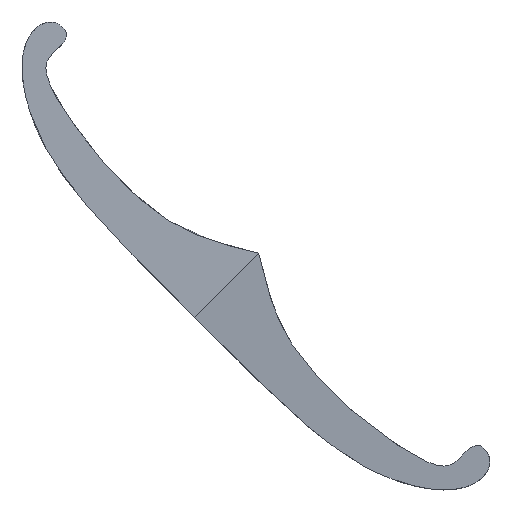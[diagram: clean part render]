
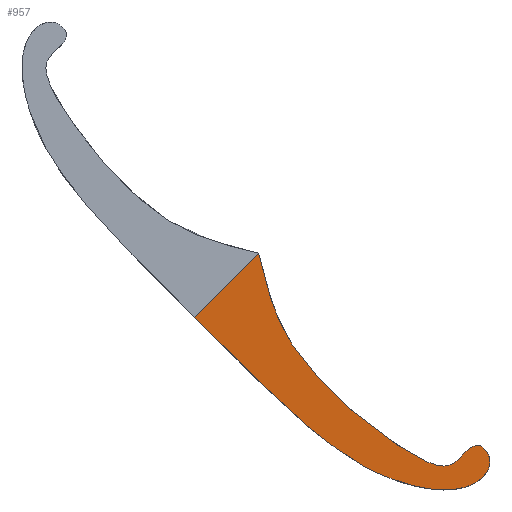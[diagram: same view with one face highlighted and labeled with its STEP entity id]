
A CAD part, top view. The second image highlights one B-rep face of the part: STEP entity #957.
In plain terms, the highlighted planar face has unit normal (0.123, -0.123, 0.985).
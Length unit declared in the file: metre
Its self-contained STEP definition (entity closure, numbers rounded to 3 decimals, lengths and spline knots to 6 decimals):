
#69=B_SPLINE_CURVE_WITH_KNOTS('',3,(#1382,#1383,#1384,#1385,#1386,#1387,
#1388),.UNSPECIFIED.,.F.,.F.,(4,1,1,1,4),(0.071175,0.076968,
0.082762,0.088555,0.094349),.UNSPECIFIED.);
#102=B_SPLINE_CURVE_WITH_KNOTS('',3,(#1858,#1859,#1860,#1861,#1862),
 .UNSPECIFIED.,.F.,.F.,(4,1,4),(0.094817,0.111378,0.127938),
 .UNSPECIFIED.);
#104=B_SPLINE_CURVE_WITH_KNOTS('',3,(#1916,#1917,#1918,#1919,#1920,#1921,
#1922,#1923,#1924,#1925,#1926,#1927,#1928,#1929,#1930,#1931,#1932,#1933,
#1934,#1935,#1936),.UNSPECIFIED.,.F.,.F.,(4,1,1,1,1,1,1,1,1,1,1,1,1,1,1,
1,1,1,4),(0.00296,0.003283,0.003605,0.00425,
0.004895,0.00554,0.00683,0.00812,
0.009409,0.010699,0.013279,0.015858,
0.018438,0.021017,0.023597,0.028756,
0.033915,0.039074,0.044234),.UNSPECIFIED.);
#106=B_SPLINE_CURVE_WITH_KNOTS('',3,(#1992,#1993,#1994,#1995,#1996,#1997,
#1998,#1999,#2000,#2001,#2002,#2003,#2004,#2005,#2006,#2007,#2008,#2009,
#2010,#2011),.UNSPECIFIED.,.F.,.F.,(4,1,1,1,1,1,1,1,1,1,1,1,1,1,1,1,1,4),
(0.197105,0.204473,0.21184,0.219208,
0.226576,0.23026,0.233944,0.237628,
0.241312,0.243154,0.244996,0.246838,
0.24868,0.250522,0.252364,0.254206,
0.255127,0.256048),.UNSPECIFIED.);
#305=ORIENTED_EDGE('',*,*,#466,.F.);
#306=ORIENTED_EDGE('',*,*,#449,.T.);
#307=ORIENTED_EDGE('',*,*,#506,.F.);
#308=ORIENTED_EDGE('',*,*,#509,.F.);
#309=ORIENTED_EDGE('',*,*,#511,.F.);
#310=ORIENTED_EDGE('',*,*,#422,.T.);
#422=EDGE_CURVE('',#559,#543,#69,.F.);
#449=EDGE_CURVE('',#584,#585,#647,.T.);
#466=EDGE_CURVE('',#584,#543,#661,.T.);
#506=EDGE_CURVE('',#614,#585,#102,.T.);
#509=EDGE_CURVE('',#616,#614,#104,.T.);
#511=EDGE_CURVE('',#559,#616,#106,.T.);
#543=VERTEX_POINT('',#1312);
#559=VERTEX_POINT('',#1389);
#584=VERTEX_POINT('',#1478);
#585=VERTEX_POINT('',#1479);
#614=VERTEX_POINT('',#1857);
#616=VERTEX_POINT('',#1915);
#647=LINE('',#1477,#718);
#661=LINE('',#1522,#732);
#718=VECTOR('',#1101,1.);
#732=VECTOR('',#1125,1.);
#801=EDGE_LOOP('',(#305,#306,#307,#308,#309,#310));
#867=FACE_BOUND('',#801,.T.);
#910=PLANE('',#1025);
#957=ADVANCED_FACE('',(#867),#910,.T.);
#1025=AXIS2_PLACEMENT_3D('',#2013,#1173,#1174);
#1101=DIRECTION('',(0.696,-0.696,-0.174));
#1125=DIRECTION('',(0.707,0.707,0.));
#1173=DIRECTION('',(0.123,-0.123,0.985));
#1174=DIRECTION('',(0.696,-0.696,-0.174));
#1312=CARTESIAN_POINT('',(-0.022936,0.026924,0.01875));
#1382=CARTESIAN_POINT('',(-0.022936,0.026924,0.01875));
#1383=CARTESIAN_POINT('',(-0.022433,0.025082,0.018458));
#1384=CARTESIAN_POINT('',(-0.021536,0.02137,0.017883));
#1385=CARTESIAN_POINT('',(-0.020112,0.015824,0.017014));
#1386=CARTESIAN_POINT('',(-0.018027,0.010486,0.016088));
#1387=CARTESIAN_POINT('',(-0.016172,0.00716,0.015443));
#1388=CARTESIAN_POINT('',(-0.015194,0.005527,0.015117));
#1389=CARTESIAN_POINT('',(-0.015194,0.005527,0.015117));
#1477=CARTESIAN_POINT('',(-0.024299,-0.002212,0.015287));
#1478=CARTESIAN_POINT('',(-0.038186,0.011674,0.01875));
#1479=CARTESIAN_POINT('',(-0.023248,-0.003264,0.015025));
#1522=CARTESIAN_POINT('',(0.097081,0.146941,0.01875));
#1857=CARTESIAN_POINT('',(0.001959,-0.023773,0.009325));
#1858=CARTESIAN_POINT('',(0.001959,-0.023773,0.009325));
#1859=CARTESIAN_POINT('',(-0.002784,-0.021103,0.010249));
#1860=CARTESIAN_POINT('',(-0.011389,-0.014435,0.012154));
#1861=CARTESIAN_POINT('',(-0.019391,-0.007087,0.014068));
#1862=CARTESIAN_POINT('',(-0.023248,-0.003264,0.015025));
#1915=CARTESIAN_POINT('',(0.029661,-0.018959,0.006471));
#1916=CARTESIAN_POINT('',(0.029661,-0.018959,0.006471));
#1917=CARTESIAN_POINT('',(0.029768,-0.018959,0.006458));
#1918=CARTESIAN_POINT('',(0.029964,-0.01904,0.006424));
#1919=CARTESIAN_POINT('',(0.030316,-0.01925,0.006353));
#1920=CARTESIAN_POINT('',(0.030715,-0.019582,0.006262));
#1921=CARTESIAN_POINT('',(0.031134,-0.020026,0.006155));
#1922=CARTESIAN_POINT('',(0.031625,-0.020692,0.00601));
#1923=CARTESIAN_POINT('',(0.032064,-0.021617,0.00584));
#1924=CARTESIAN_POINT('',(0.03223,-0.02286,0.005665));
#1925=CARTESIAN_POINT('',(0.031994,-0.024096,0.00554));
#1926=CARTESIAN_POINT('',(0.031261,-0.025606,0.005443));
#1927=CARTESIAN_POINT('',(0.029817,-0.027133,0.005433));
#1928=CARTESIAN_POINT('',(0.027647,-0.028389,0.005547));
#1929=CARTESIAN_POINT('',(0.025294,-0.029122,0.005749));
#1930=CARTESIAN_POINT('',(0.022833,-0.029456,0.006014));
#1931=CARTESIAN_POINT('',(0.019586,-0.02949,0.006415));
#1932=CARTESIAN_POINT('',(0.01551,-0.028944,0.006991));
#1933=CARTESIAN_POINT('',(0.010845,-0.027671,0.007731));
#1934=CARTESIAN_POINT('',(0.006316,-0.025948,0.008511));
#1935=CARTESIAN_POINT('',(0.003379,-0.02455,0.009051));
#1936=CARTESIAN_POINT('',(0.001959,-0.023773,0.009325));
#1992=CARTESIAN_POINT('',(-0.015194,0.005527,0.015117));
#1993=CARTESIAN_POINT('',(-0.013889,0.003489,0.0147));
#1994=CARTESIAN_POINT('',(-0.010993,-0.000321,0.013864));
#1995=CARTESIAN_POINT('',(-0.006197,-0.005614,0.012606));
#1996=CARTESIAN_POINT('',(-0.000919,-0.010455,0.011344));
#1997=CARTESIAN_POINT('',(0.003779,-0.014213,0.01029));
#1998=CARTESIAN_POINT('',(0.007638,-0.017066,0.009453));
#1999=CARTESIAN_POINT('',(0.010601,-0.019116,0.008828));
#2000=CARTESIAN_POINT('',(0.013658,-0.021032,0.008208));
#2001=CARTESIAN_POINT('',(0.016328,-0.022442,0.007699));
#2002=CARTESIAN_POINT('',(0.018557,-0.023317,0.007312));
#2003=CARTESIAN_POINT('',(0.020314,-0.023765,0.007038));
#2004=CARTESIAN_POINT('',(0.022163,-0.02382,0.0068));
#2005=CARTESIAN_POINT('',(0.023893,-0.023026,0.006683));
#2006=CARTESIAN_POINT('',(0.02514,-0.021647,0.0067));
#2007=CARTESIAN_POINT('',(0.026327,-0.020243,0.006727));
#2008=CARTESIAN_POINT('',(0.027576,-0.019292,0.00669));
#2009=CARTESIAN_POINT('',(0.028741,-0.018889,0.006595));
#2010=CARTESIAN_POINT('',(0.029373,-0.018868,0.006519));
#2011=CARTESIAN_POINT('',(0.029661,-0.018959,0.006471));
#2013=CARTESIAN_POINT('',(0.097081,0.146941,0.01875));
